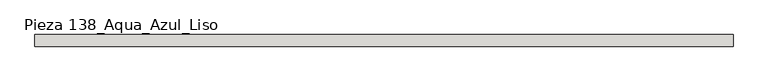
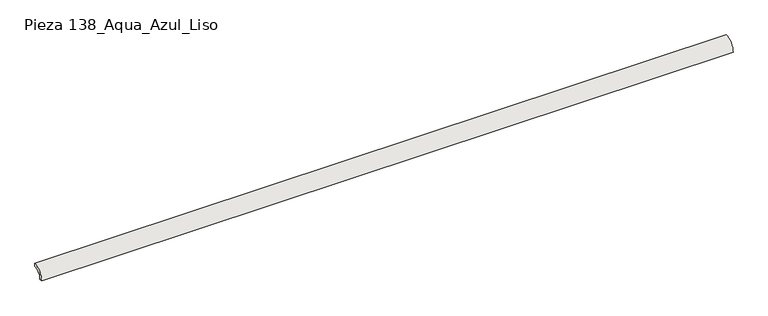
"""IFC4 building model written with IfcOpenShell, lengths in millimetres: slab geometry, ROSA GRES_138 : Pieza 138_Aqua_Azul_Liso."""

from ifc_helpers import new_model, si_unit, point, frame, frame_2d, origin, origin_2d, place, context, project, spatial, polyline, circle_curve, trimmed, segment, composite_curve, outline, extrude, source, transform, mapped, element, save


def pieza_138_aqua_azul_liso_85f08b2a(model_context):
    return source(origin(), model_context, "Body", "SweptSolid", [
        extrude(outline(composite_curve([segment(polyline([(0.0, 40.0), (0.0, 30.0265886)]), True, "CONTINUOUS"), segment(trimmed(circle_curve(frame_2d((-0.0044453, 0.0044453)), 30.0221435), [point((0.0, 30.0265886))], [point((-30.0265886, 0.0))], True, "CARTESIAN"), True, "CONTINUOUS"), segment(polyline([(-30.0265886, 0.0), (-40.0, 0.0)]), True, "CONTINUOUS"), segment(trimmed(circle_curve(origin_2d(), 40.0), [point((-40.0, 0.0))], [point((0.0, 40.0))], False, "CARTESIAN"), True, "CONTINUOUS")], self_intersect=False)), frame((0.0, 0.0, 0.0), z_axis=(1.0, 0.0, 0.0), x_axis=(0.0, 1.0, 0.0)), (0.0, 0.0, 1.0), 2406.5027722),
    ])


if __name__ == "__main__":
    model = new_model("IFC4")
    model_context = context("Model", 3, world=origin())
    ifc_project = project(units=[si_unit("LENGTHUNIT", "METRE", prefix="MILLI")], contexts=[model_context])
    site = spatial("IfcSite", under=ifc_project)
    building = spatial("IfcBuilding", under=site)
    placement = place(None, origin())
    pieza_138_aqua_azul_liso_shape = pieza_138_aqua_azul_liso_85f08b2a(model_context)
    element("IfcSlab", 1, ObjectType="ROSA GRES_138 : Pieza 138_Aqua_Azul_Liso", at=placement, inside=building, context=model_context, shape_type="MappedRepresentation", body=[
        mapped(pieza_138_aqua_azul_liso_shape, transform((0.0, 0.0, 0.0), x_axis=(1.0, 0.0, 0.0), y_axis=(0.0, 1.0, 0.0), z_axis=(0.0, 0.0, 1.0))),
    ])
    save(model, "model.ifc")
